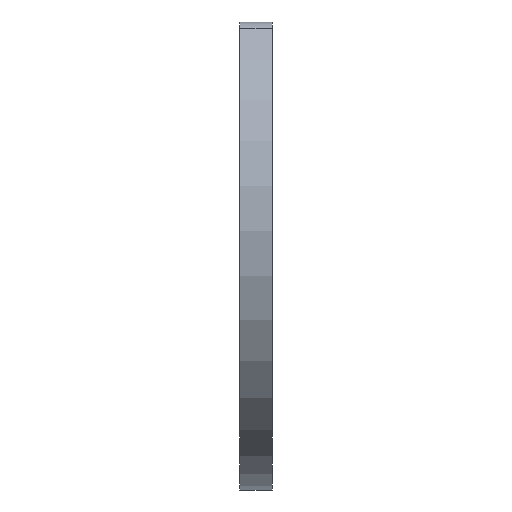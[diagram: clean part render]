
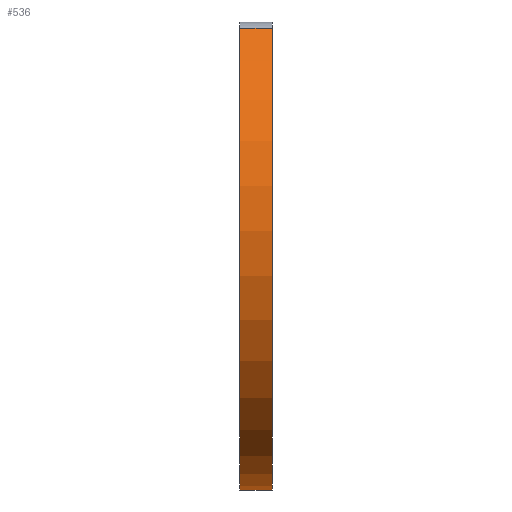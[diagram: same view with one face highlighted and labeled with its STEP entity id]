
A CAD part, left-side view. The second image highlights one B-rep face of the part: STEP entity #536.
In plain terms, the highlighted cylindrical face has radius 5.65 mm (diameter 11.3 mm), a partial arc.
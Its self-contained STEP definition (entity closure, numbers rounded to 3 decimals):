
#37 = CARTESIAN_POINT ( 'NONE',  ( 0., 0.35, -5.65 ) ) ;
#69 = CARTESIAN_POINT ( 'NONE',  ( -3.794, 0.35, 4.187 ) ) ;
#86 = CIRCLE ( 'NONE', #275, 5.65 ) ;
#155 = VERTEX_POINT ( 'NONE', #69 ) ;
#163 = EDGE_LOOP ( 'NONE', ( #368, #225, #388, #431 ) ) ;
#173 = CYLINDRICAL_SURFACE ( 'NONE', #580, 5.65 ) ;
#177 = CARTESIAN_POINT ( 'NONE',  ( 0., 0.35, -5.65 ) ) ;
#225 = ORIENTED_EDGE ( 'NONE', *, *, #516, .T. ) ;
#248 = CARTESIAN_POINT ( 'NONE',  ( 0., 0.35, 0. ) ) ;
#275 = AXIS2_PLACEMENT_3D ( 'NONE', #902, #746, #446 ) ;
#279 = CARTESIAN_POINT ( 'NONE',  ( 0., -0.35, -5.65 ) ) ;
#303 = DIRECTION ( 'NONE',  ( 0., -1., 0. ) ) ;
#306 = DIRECTION ( 'NONE',  ( 0., 0., -1. ) ) ;
#320 = VERTEX_POINT ( 'NONE', #279 ) ;
#368 = ORIENTED_EDGE ( 'NONE', *, *, #512, .F. ) ;
#373 = DIRECTION ( 'NONE',  ( 0., 0., 1. ) ) ;
#376 = VERTEX_POINT ( 'NONE', #883 ) ;
#388 = ORIENTED_EDGE ( 'NONE', *, *, #926, .T. ) ;
#431 = ORIENTED_EDGE ( 'NONE', *, *, #673, .T. ) ;
#446 = DIRECTION ( 'NONE',  ( 0., 0., 1. ) ) ;
#450 = DIRECTION ( 'NONE',  ( 0., -1., 0. ) ) ;
#467 = VERTEX_POINT ( 'NONE', #37 ) ;
#470 = LINE ( 'NONE', #668, #667 ) ;
#508 = FACE_OUTER_BOUND ( 'NONE', #163, .T. ) ;
#512 = EDGE_CURVE ( 'NONE', #467, #155, #821, .T. ) ;
#516 = EDGE_CURVE ( 'NONE', #467, #320, #736, .T. ) ;
#536 = ADVANCED_FACE ( 'NONE', ( #508 ), #173, .T. ) ;
#543 = AXIS2_PLACEMENT_3D ( 'NONE', #837, #912, #373 ) ;
#548 = VECTOR ( 'NONE', #450, 1000. ) ;
#580 = AXIS2_PLACEMENT_3D ( 'NONE', #248, #303, #306 ) ;
#667 = VECTOR ( 'NONE', #820, 1000. ) ;
#668 = CARTESIAN_POINT ( 'NONE',  ( -3.794, 0.35, 4.187 ) ) ;
#673 = EDGE_CURVE ( 'NONE', #376, #155, #470, .T. ) ;
#736 = LINE ( 'NONE', #177, #548 ) ;
#746 = DIRECTION ( 'NONE',  ( 0., 1., 0. ) ) ;
#820 = DIRECTION ( 'NONE',  ( 0., 1., 0. ) ) ;
#821 = CIRCLE ( 'NONE', #543, 5.65 ) ;
#837 = CARTESIAN_POINT ( 'NONE',  ( 0., 0.35, 0. ) ) ;
#883 = CARTESIAN_POINT ( 'NONE',  ( -3.794, -0.35, 4.187 ) ) ;
#902 = CARTESIAN_POINT ( 'NONE',  ( 0., -0.35, 0. ) ) ;
#912 = DIRECTION ( 'NONE',  ( 0., 1., 0. ) ) ;
#926 = EDGE_CURVE ( 'NONE', #320, #376, #86, .T. ) ;
